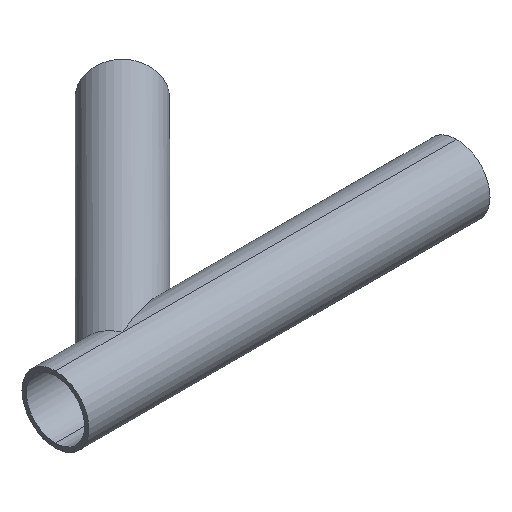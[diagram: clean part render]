
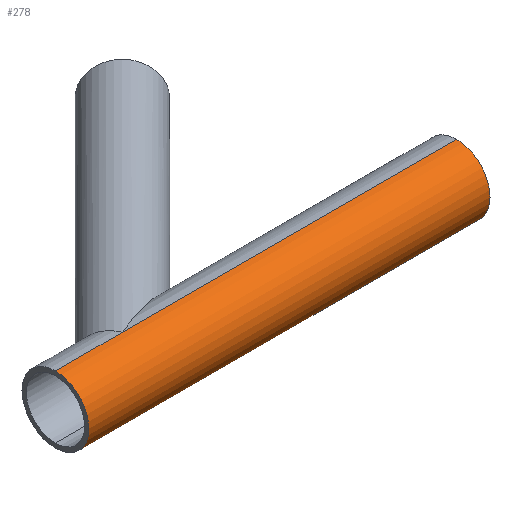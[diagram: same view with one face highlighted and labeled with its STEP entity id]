
A CAD part, isometric view. The second image highlights one B-rep face of the part: STEP entity #278.
In plain terms, the highlighted cylindrical face has radius 12.7 mm (diameter 25.4 mm), a partial arc.
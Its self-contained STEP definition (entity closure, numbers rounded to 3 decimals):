
#3 = EDGE_CURVE ( 'NONE', #19, #103, #320, .T. ) ;
#13 = EDGE_LOOP ( 'NONE', ( #171, #98, #105, #99, #104, #87 ) ) ;
#15 = DIRECTION ( 'NONE',  ( 0., 0., -1. ) ) ;
#19 = VERTEX_POINT ( 'NONE', #179 ) ;
#22 = EDGE_CURVE ( 'NONE', #366, #140, #335, .T. ) ;
#57 = CARTESIAN_POINT ( 'NONE',  ( -25.4, 0., 0. ) ) ;
#61 = DIRECTION ( 'NONE',  ( 0., 0., -1. ) ) ;
#87 = ORIENTED_EDGE ( 'NONE', *, *, #91, .F. ) ;
#91 = EDGE_CURVE ( 'NONE', #103, #140, #295, .T. ) ;
#98 = ORIENTED_EDGE ( 'NONE', *, *, #266, .T. ) ;
#99 = ORIENTED_EDGE ( 'NONE', *, *, #274, .T. ) ;
#100 = CARTESIAN_POINT ( 'NONE',  ( 0., 0., -12.7 ) ) ;
#103 = VERTEX_POINT ( 'NONE', #355 ) ;
#104 = ORIENTED_EDGE ( 'NONE', *, *, #22, .T. ) ;
#105 = ORIENTED_EDGE ( 'NONE', *, *, #262, .T. ) ;
#140 = VERTEX_POINT ( 'NONE', #385 ) ;
#146 = LINE ( 'NONE', #305, #255 ) ;
#167 = AXIS2_PLACEMENT_3D ( 'NONE', #429, #423, #61 ) ;
#171 = ORIENTED_EDGE ( 'NONE', *, *, #3, .F. ) ;
#179 = CARTESIAN_POINT ( 'NONE',  ( -25.4, 0., 12.7 ) ) ;
#187 = CARTESIAN_POINT ( 'NONE',  ( 127., 0., -12.7 ) ) ;
#188 = CARTESIAN_POINT ( 'NONE',  ( -25.4, 0., 12.7 ) ) ;
#222 = AXIS2_PLACEMENT_3D ( 'NONE', #57, #264, #15 ) ;
#230 = DIRECTION ( 'NONE',  ( 1., 0., 0. ) ) ;
#233 = CARTESIAN_POINT ( 'NONE',  ( -25.4, 0., -12.7 ) ) ;
#235 = DIRECTION ( 'NONE',  ( 1., 0., 0. ) ) ;
#238 = CIRCLE ( 'NONE', #222, 12.7 ) ;
#255 = VECTOR ( 'NONE', #235, 1000. ) ;
#262 = EDGE_CURVE ( 'NONE', #302, #282, #279, .T. ) ;
#264 = DIRECTION ( 'NONE',  ( 1., 0., 0. ) ) ;
#266 = EDGE_CURVE ( 'NONE', #19, #302, #238, .T. ) ;
#270 = CYLINDRICAL_SURFACE ( 'NONE', #421, 12.7 ) ;
#274 = EDGE_CURVE ( 'NONE', #282, #366, #146, .T. ) ;
#278 = ADVANCED_FACE ( 'NONE', ( #353 ), #270, .T. ) ;
#279 = LINE ( 'NONE', #233, #331 ) ;
#282 = VERTEX_POINT ( 'NONE', #100 ) ;
#295 = LINE ( 'NONE', #419, #323 ) ;
#302 = VERTEX_POINT ( 'NONE', #411 ) ;
#305 = CARTESIAN_POINT ( 'NONE',  ( -25.4, 0., -12.7 ) ) ;
#312 = VECTOR ( 'NONE', #435, 1000. ) ;
#320 = LINE ( 'NONE', #188, #312 ) ;
#323 = VECTOR ( 'NONE', #443, 1000. ) ;
#331 = VECTOR ( 'NONE', #436, 1000. ) ;
#335 = CIRCLE ( 'NONE', #167, 12.7 ) ;
#340 = CARTESIAN_POINT ( 'NONE',  ( -25.4, 0., 0. ) ) ;
#353 = FACE_OUTER_BOUND ( 'NONE', #13, .T. ) ;
#355 = CARTESIAN_POINT ( 'NONE',  ( 0., 0., 12.7 ) ) ;
#366 = VERTEX_POINT ( 'NONE', #187 ) ;
#385 = CARTESIAN_POINT ( 'NONE',  ( 127., 0., 12.7 ) ) ;
#411 = CARTESIAN_POINT ( 'NONE',  ( -25.4, 0., -12.7 ) ) ;
#419 = CARTESIAN_POINT ( 'NONE',  ( -25.4, 0., 12.7 ) ) ;
#421 = AXIS2_PLACEMENT_3D ( 'NONE', #340, #230, #434 ) ;
#423 = DIRECTION ( 'NONE',  ( -1., 0., 0. ) ) ;
#429 = CARTESIAN_POINT ( 'NONE',  ( 127., 0., 0. ) ) ;
#434 = DIRECTION ( 'NONE',  ( 0., 0., -1. ) ) ;
#435 = DIRECTION ( 'NONE',  ( 1., 0., 0. ) ) ;
#436 = DIRECTION ( 'NONE',  ( 1., 0., 0. ) ) ;
#443 = DIRECTION ( 'NONE',  ( 1., 0., 0. ) ) ;
